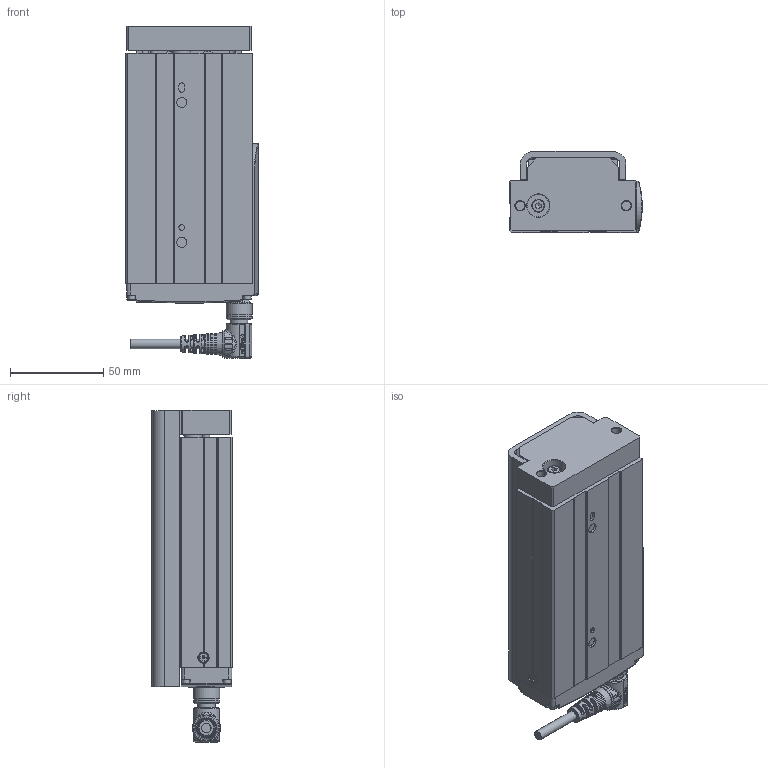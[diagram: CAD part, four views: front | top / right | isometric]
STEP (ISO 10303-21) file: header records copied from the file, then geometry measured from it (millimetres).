
FILE_DESCRIPTION(/* description */ ('STEP AP203'),/* implementation_level */ '2;1');
FILE_NAME(/* name */ 'D:\暫\2025.02.06 CSG 3D\CSG25\CSG25-S75-WR.stp',/* time_stamp */ '2025-02-08T10:02:18+08:00',/* author */ ('T10033'),/* organization */ (''),/* preprocessor_version */ 'ST-DEVELOPER v18.1',/* originating_system */ 'Autodesk Inventor 2020',/* authorisation */ '');
FILE_SCHEMA (('CONFIG_CONTROL_DESIGN'));
Products named in the file (18): CSG25-50行程-180接頭-完整組合; 22035-000061(G4ªo¯]); countersunk flat head cross recess screw_iso_ISO 7046-1 - M2.5 x 4 - 
Z - 4N; ©T©wªO-·¥­­¾×ª
O4-M2¤ú; socket head cap screw_iso_ISO 4762 M2.5 x 6 - 6N; socket head cap screw_iso_ISO 4762 M2.5 x 8 - 8N; ¶ì½¦ºÝ»-L¼Ë¦¡
(TOYO); socket head cap screw_iso_ISO 4762 M2 x 12 - 12N; M12 -14PIN  ªOºÝ-²Ä¤@ºØ
³W®æ; CSG25-50¥»Åé3ª©-ªo¤Õ
½Õ¾ã¨¤«×; CSG25-Carriage-newtype; Solid1-2; M12-14PIN 線端90度接頭-05中繼線; 12003-000221-­×§ï; 22024-000496; CNS 3932 - M 4 x 0.7 x 12; socket head cap screw_iso_ISO 4762 M2.5 x 5 - 5N; CNS 4558 - M5 x 0.8 x 12
Assembly tree (29 placements, depth 2):
  CSG25-50行程-180接頭-完整組合
    22035-000061(G4ªo¯])
    socket head cap screw_iso_ISO 4762 M2.5 x 8 - 8N  x8
    countersunk flat head cross recess screw_iso_ISO 7046-1 - M2.5 x 4 - 
Z - 4N
    ©T©wªO-·¥­­¾×ª
O4-M2¤ú
    socket head cap screw_iso_ISO 4762 M2.5 x 6 - 6N  x2
    ¶ì½¦ºÝ»-L¼Ë¦¡
(TOYO)
    socket head cap screw_iso_ISO 4762 M2 x 12 - 12N  x4
    M12 -14PIN  ªOºÝ-²Ä¤@ºØ
³W®æ
    CSG25-50¥»Åé3ª©-ªo¤Õ
½Õ¾ã¨¤«×
    CSG25-Carriage-newtype
    Solid1-2
    M12-14PIN 線端90度接頭-05中繼線
    12003-000221-­×§ï
    22024-000496
    CNS 3932 - M 4 x 0.7 x 12
    socket head cap screw_iso_ISO 4762 M2.5 x 5 - 5N
    CNS 4558 - M5 x 0.8 x 12  x2
Bounding box: 71 x 43.5 x 178 mm (x, y, z)
Volume: 338566.9 mm3; surface area: 89823 mm2
Topology: 43 solids, 53 shells, 2988 faces, 8205 edges, 5450 vertices
Faces by surface type: plane 1432, bspline 647, cylinder 495, cone 282, torus 125, sphere 7
Full cylindrical faces by diameter (mm): 0.6 x14, 0.65 x14, 1 x14, 1.6 x4, 2 x4, 2.05 x3, 2.5 x13, 2.9 x2, 3 x3, 3.8 x4, 4 x1, 4.134 x8, 4.5 x11, 4.7 x1, 4.95 x1, 5 x6, 5.2 x1, 5.3 x2, 5.4 x4, 5.5 x4, 6 x3, 7 x1, 8 x1, 8.9 x1, 9 x12, 9.5 x2, 9.6 x1, 10 x6, 10.4 x2, 10.5 x2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
Entity records: 115305 total; most frequent: CARTESIAN_POINT 44544, ORIENTED_EDGE 15129, DIRECTION 13277, EDGE_CURVE 7583, VERTEX_POINT 5063, AXIS2_PLACEMENT_3D 4641, LINE 3995, VECTOR 3995
